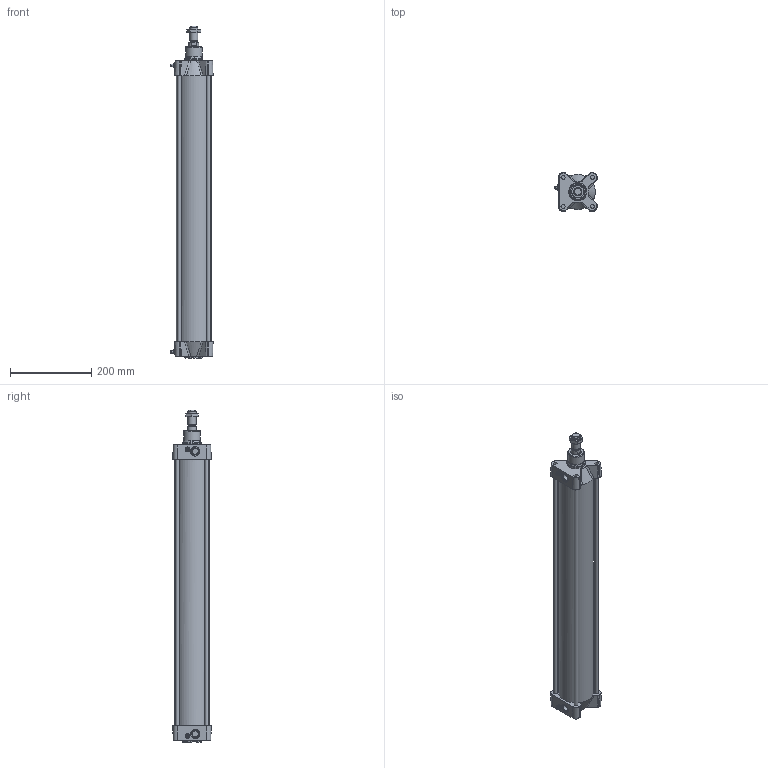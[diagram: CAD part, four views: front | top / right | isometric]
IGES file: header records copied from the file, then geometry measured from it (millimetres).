
Global section: file name: 1393_080_0600_01; native system: Autodesk Inventor 2014; preprocessor: unknown; author: A. Manieri; date: 20151130.150823; units: millimetre
Bounding box: 104 x 95 x 818 mm (x, y, z)
Volume: 1799906.1 mm3; surface area: 568516.8 mm2
Topology: 3 solids, 5 shells, 233 faces, 578 edges, 377 vertices
Faces by surface type: bspline 233
